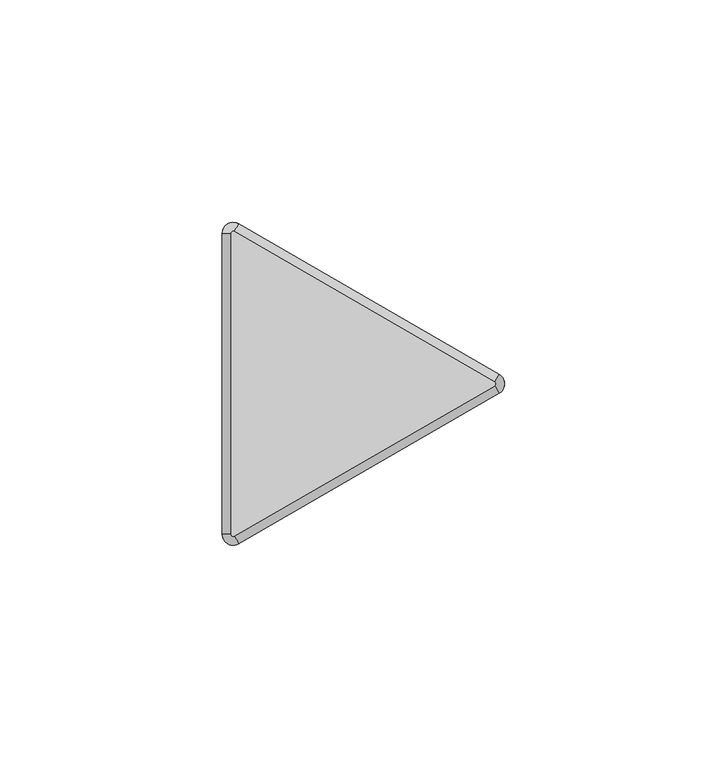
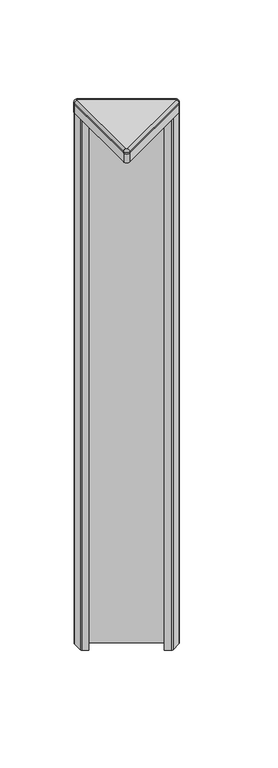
"""IFC4 building model written with IfcOpenShell, lengths in millimetres: furniture geometry, Steelcase - Answer Solution - Panel - 120deg Change-of-Height Trim - Thin : V Corner - 18H for 72H App."""

import ifcopenshell
import ifcopenshell.guid

model = None  # the IFC model being written
_history = None  # IfcOwnerHistory: only IFC2X3 demands one
_inside = {}  # id of a spatial element -> (the spatial element, [elements in it])
_under = {}  # id of a project, library or spatial element -> (it, [spatial elements below it])
_declared = {}  # id of a project -> (the project, [libraries it declares])
_typed = {}  # id of a type object -> (the type object, [elements of that type])
_made_of = {}  # id of a material, layer set ... -> (it, [elements and type objects made of it])


def new_model(schema):
    """Start an empty IFC model of exactly this schema.

    Asked for "IFC4X3", IfcOpenShell would pick the latest addendum, in which some entities
    have other attributes; the version numbers below select the first issue.
    IFC2X3 requires an IfcOwnerHistory on every rooted entity: one is made here for all.
    """
    global model, _history
    if schema == "IFC4X3":
        model = ifcopenshell.file(schema_version=(4, 3, 0, 0))
    else:
        model = ifcopenshell.file(schema=schema)
    _inside.clear()
    _under.clear()
    _declared.clear()
    _typed.clear()
    _made_of.clear()
    _history = None
    if model.schema == "IFC2X3":
        org = make("IfcOrganization", Name="unknown")
        user = make(
            "IfcPersonAndOrganization",
            ThePerson=make("IfcPerson", FamilyName="unknown"),
            TheOrganization=org,
        )
        app = make(
            "IfcApplication",
            ApplicationDeveloper=org,
            Version="unknown",
            ApplicationFullName="unknown",
            ApplicationIdentifier="unknown",
        )
        _history = make(
            "IfcOwnerHistory",
            OwningUser=user,
            OwningApplication=app,
            ChangeAction="ADDED",
            CreationDate=0,
        )
    return model


def make(cls, **values):
    """One entity of the class cls with the attributes given. An attribute that is None is left unset."""
    return model.create_entity(
        cls, **{name: value for name, value in values.items() if value is not None}
    )


def rooted(cls, **values):
    """An entity with a GlobalId (a new one), such as an element, a storey or a relation."""
    return make(cls, GlobalId=ifcopenshell.guid.new(), OwnerHistory=_history, **values)


def si_unit(unit_type, name, prefix=None):
    """IfcSIUnit, for example si_unit("LENGTHUNIT", "METRE", prefix="MILLI")."""
    return make("IfcSIUnit", UnitType=unit_type, Prefix=prefix, Name=name)


def assignment(units):
    """IfcUnitAssignment: the units of a project."""
    return None if units is None else make("IfcUnitAssignment", Units=units)


def point(xyz):
    """IfcCartesianPoint."""
    return None if xyz is None else make("IfcCartesianPoint", Coordinates=xyz)


def direction(xyz):
    """IfcDirection."""
    return None if xyz is None else make("IfcDirection", DirectionRatios=xyz)


def frame(location, z_axis=None, x_axis=None):
    """IfcAxis2Placement3D, a coordinate frame: its origin and axes. An axis left out is left unset."""
    return make(
        "IfcAxis2Placement3D",
        Location=point(location),
        Axis=direction(z_axis),
        RefDirection=direction(x_axis),
    )


def frame_2d(location, x_axis=None):
    """IfcAxis2Placement2D, a coordinate frame in the plane: its origin and x axis."""
    return make(
        "IfcAxis2Placement2D", Location=point(location), RefDirection=direction(x_axis)
    )


def origin():
    """The frame at (0, 0, 0) with its axes left unset."""
    return frame((0.0, 0.0, 0.0))


def place(relative_to, where):
    """IfcLocalPlacement: puts the frame where relative to a parent placement (None: the world)."""
    return make(
        "IfcLocalPlacement", PlacementRelTo=relative_to, RelativePlacement=where
    )


def context(
    kind, dimensions, precision=None, world=None, true_north=None, identifier=None
):
    """IfcGeometricRepresentationContext, for example the 3D "Model" context."""
    return make(
        "IfcGeometricRepresentationContext",
        ContextIdentifier=identifier,
        ContextType=kind,
        CoordinateSpaceDimension=dimensions,
        Precision=precision,
        WorldCoordinateSystem=world,
        TrueNorth=true_north,
    )


def project(units=None, contexts=None):
    """IfcProject with its units and contexts."""
    return rooted(
        "IfcProject",
        Name="project",
        RepresentationContexts=contexts,
        UnitsInContext=assignment(units),
    )


def spatial(cls, under=None, at=None, **own):
    """A site, building, storey or space (cls), placed at a placement, below another one or the project."""
    s = rooted(cls, ObjectPlacement=at, **own)
    if under is not None:
        _under.setdefault(under.id(), (under, []))[1].append(s)
    return s


def polyline(points):
    """IfcPolyline through the points."""
    return make("IfcPolyline", Points=[point(p) for p in points])


def circle_curve(where, radius):
    """IfcCircle in the frame where."""
    return make("IfcCircle", Position=where, Radius=radius)


def ellipse_curve(where, semi_axis1, semi_axis2):
    """IfcEllipse in the frame where."""
    return make(
        "IfcEllipse", Position=where, SemiAxis1=semi_axis1, SemiAxis2=semi_axis2
    )


def trimmed(basis, trim1, trim2, sense, master):
    """IfcTrimmedCurve: the piece of a basis curve between two trims."""
    return make(
        "IfcTrimmedCurve",
        BasisCurve=basis,
        Trim1=trim1,
        Trim2=trim2,
        SenseAgreement=sense,
        MasterRepresentation=master,
    )


def segment(curve, same_sense, transition):
    """IfcCompositeCurveSegment."""
    return make(
        "IfcCompositeCurveSegment",
        Transition=transition,
        SameSense=same_sense,
        ParentCurve=curve,
    )


def composite_curve(segments, self_intersect=None):
    """IfcCompositeCurve: segments joined end to end."""
    return make("IfcCompositeCurve", Segments=segments, SelfIntersect=self_intersect)


def outline(outer, holes=None, kind="AREA"):
    """IfcArbitraryClosedProfileDef: a profile drawn as a closed curve; with holes, ...WithVoids."""
    if holes is None:
        return make("IfcArbitraryClosedProfileDef", ProfileType=kind, OuterCurve=outer)
    return make(
        "IfcArbitraryProfileDefWithVoids",
        ProfileType=kind,
        OuterCurve=outer,
        InnerCurves=holes,
    )


def extrude(swept, where, along, depth):
    """IfcExtrudedAreaSolid: the profile swept, set in the frame where, extruded along a direction by depth."""
    return make(
        "IfcExtrudedAreaSolid",
        SweptArea=swept,
        Position=where,
        ExtrudedDirection=direction(along),
        Depth=depth,
    )


def shape(context_of_items, identifier, shape_type, items):
    """IfcShapeRepresentation: the items that make up one representation, for example the "Body"."""
    return make(
        "IfcShapeRepresentation",
        ContextOfItems=context_of_items,
        RepresentationIdentifier=identifier,
        RepresentationType=shape_type,
        Items=items,
    )


def source(mapping_origin, context_of_items, identifier, shape_type, items):
    """IfcRepresentationMap: a shape defined once, which mapped items show again and again."""
    return make(
        "IfcRepresentationMap",
        MappingOrigin=mapping_origin,
        MappedRepresentation=shape(context_of_items, identifier, shape_type, items),
    )


def transform(
    local_origin,
    x_axis=None,
    y_axis=None,
    z_axis=None,
    scale=None,
    scale2=None,
    scale3=None,
    uniform=True,
):
    """IfcCartesianTransformationOperator3D, or its non-uniform kind. x_axis, y_axis, z_axis: its Axis1, 2, 3."""
    if uniform:
        return make(
            "IfcCartesianTransformationOperator3D",
            Axis1=direction(x_axis),
            Axis2=direction(y_axis),
            LocalOrigin=point(local_origin),
            Scale=scale,
            Axis3=direction(z_axis),
        )
    return make(
        "IfcCartesianTransformationOperator3DnonUniform",
        Axis1=direction(x_axis),
        Axis2=direction(y_axis),
        LocalOrigin=point(local_origin),
        Scale=scale,
        Axis3=direction(z_axis),
        Scale2=scale2,
        Scale3=scale3,
    )


def mapped(mapping_source, mapping_target):
    """IfcMappedItem: shows the shape of a source again, moved by a transform."""
    return make(
        "IfcMappedItem", MappingSource=mapping_source, MappingTarget=mapping_target
    )


def made_of(thing, what):
    """Note that an element or type object is made of a material, layer set ...; save() writes the relation."""
    if what is not None:
        _made_of.setdefault(what.id(), (what, []))[1].append(thing)
    return thing


def element(
    cls,
    number,
    at=None,
    inside=None,
    cuts=None,
    type_object=None,
    material=None,
    context=None,
    identifier="Body",
    shape_type=None,
    held_by="IfcProductDefinitionShape",
    body=None,
    shapes=None,
    **own,
):
    """One element of the class cls, such as IfcWall. Its Tag is "e" and its number.

    at: its placement. inside: the storey or other place that contains it. cuts: it is an
    opening in that element (IfcRelVoidsElement). A single representation is given by context,
    identifier, shape_type and body (its items); several are given by shapes. held_by: the class
    of the entity that holds the representations. save() writes the other relations.
    """
    e = rooted(cls, Tag="e%d" % number, ObjectPlacement=at, **own)
    if body is not None:
        shapes = [shape(context, identifier, shape_type, body)]
    if shapes is not None:
        e.Representation = make(held_by, Representations=shapes)
    if inside is not None:
        _inside.setdefault(inside.id(), (inside, []))[1].append(e)
    if cuts is not None:
        rooted(
            "IfcRelVoidsElement", RelatingBuildingElement=cuts, RelatedOpeningElement=e
        )
    if type_object is not None:
        _typed.setdefault(type_object.id(), (type_object, []))[1].append(e)
    return made_of(e, material)


def aggregate(whole, parts):
    """IfcRelAggregates: a whole, such as a stair, and the parts it consists of."""
    return rooted("IfcRelAggregates", RelatingObject=whole, RelatedObjects=parts)


def save(model, path):
    """Write the relations noted so far, then the file.

    IfcRelAggregates (storeys below a building ...), IfcRelContainedInSpatialStructure (elements
    in a storey), IfcRelDefinesByType, IfcRelAssociatesMaterial and IfcRelDeclares: one each for
    every whole, place, type object, material and project.
    """
    for whole, parts in _under.values():
        aggregate(whole, parts)
    for where, things in _inside.values():
        rooted(
            "IfcRelContainedInSpatialStructure",
            RelatedElements=things,
            RelatingStructure=where,
        )
    for kind, things in _typed.values():
        rooted("IfcRelDefinesByType", RelatedObjects=things, RelatingType=kind)
    for what, things in _made_of.values():
        rooted("IfcRelAssociatesMaterial", RelatedObjects=things, RelatingMaterial=what)
    for by, libraries in _declared.values():
        rooted("IfcRelDeclares", RelatingContext=by, RelatedDefinitions=libraries)
    model.write(path)


def plane_surface(at):
    """IfcPlane: the flat surface through the origin of the frame at, square to its z axis."""
    return make("IfcPlane", Position=at)


def cylinder_surface(at, radius):
    """IfcCylindricalSurface: all points at the distance radius from the z axis of the frame at."""
    return make("IfcCylindricalSurface", Position=at, Radius=radius)


def revolved_surface(curve, axis_point, axis_direction):
    """IfcSurfaceOfRevolution: the curve turned about the line through axis_point along axis_direction."""
    return make(
        "IfcSurfaceOfRevolution",
        SweptCurve=make("IfcArbitraryOpenProfileDef", ProfileType="CURVE", Curve=curve),
        AxisPosition=make("IfcAxis1Placement", Location=point(axis_point), Axis=direction(axis_direction)),
    )


def advanced_brep(points, edges, surfaces, faces):
    """IfcAdvancedBrep: a solid bounded by faces that lie on surfaces and meet in shared edges.

    An edge is (start, end): straight between two places in points (the first is 0);
    or (start, end, curve); or (start, end, curve, False) where it runs against its curve.
    A face is (place in surfaces, loops), or (place, loops, False) where it looks against
    its surface's normal. A loop lists edges by number (the first is 1), with a minus sign
    where the edge is run from its end to its start. The first loop is the outer one.
    """
    corners = [point(p) for p in points]
    vertices = [make("IfcVertexPoint", VertexGeometry=c) for c in corners]
    made = []
    for start, end, *more in edges:
        made.append(
            make(
                "IfcEdgeCurve",
                EdgeStart=vertices[start],
                EdgeEnd=vertices[end],
                EdgeGeometry=more[0] if more else make("IfcPolyline", Points=[corners[start], corners[end]]),
                SameSense=more[1] if len(more) > 1 else True,
            )
        )
    hull = []
    for where, loops, *sense in faces:
        bounds = []
        for j, loop in enumerate(loops):
            ring = [make("IfcOrientedEdge", EdgeElement=made[abs(k) - 1], Orientation=k > 0) for k in loop]
            bounds.append(
                make(
                    "IfcFaceOuterBound" if j == 0 else "IfcFaceBound",
                    Bound=make("IfcEdgeLoop", EdgeList=ring),
                    Orientation=True,
                )
            )
        hull.append(make("IfcAdvancedFace", Bounds=bounds, FaceSurface=surfaces[where], SameSense=sense[0] if sense else True))
    return make("IfcAdvancedBrep", Outer=make("IfcClosedShell", CfsFaces=hull))


def furniture_6d25bcfb(model_context):
    return source(origin(), model_context, "Body", "SolidModel", [
        advanced_brep(
        [(-10.518645, -37.3335529, 1833.2628978), (-14.2052101, -35.2051135, 1833.2628978), (-14.2052101, -35.2051135, 1832.3164663), (-10.518645, -37.3335529, 1832.3164663), (-11.46175, -35.7000471, 1835.15), (-12.319, -35.2051135, 1835.15), (-11.46175, -35.7000471, 1832.3164663), (-12.319, -35.2051135, 1832.3164663), (48.0429908, -3.5229767, 1832.3164663), (48.0429908, -3.5229767, 1833.2628978), (47.0998858, -1.8894709, 1835.15), (47.0998858, -1.8894709, 1832.3164663), (48.0429908, 0.733902, 1833.2628978), (48.0429908, 0.733902, 1832.3164663), (47.0998858, -0.8996038, 1835.15), (47.0998858, -0.8996038, 1832.3164663), (-10.518645, 34.5444782, 1832.3164663), (-14.2052101, 32.4160388, 1832.3164663), (-11.46175, 32.9109723, 1832.3164663), (-12.319, 32.4160388, 1832.3164663), (-10.518645, 34.5444782, 1833.2628978), (-11.46175, 32.9109723, 1835.15), (-14.2052101, 32.4160388, 1833.2628978), (-12.319, 32.4160388, 1835.15)],
        [
            (0, 1, circle_curve(frame((-11.7475, -35.2051135, 1833.2628978), z_axis=(0.0, 0.0, -1.0), x_axis=(-1.0, 0.0, 0.0)), 2.4577101)),
            (1, 2),
            (2, 3, circle_curve(frame((-11.7475, -35.2051135, 1832.3164663), z_axis=(0.0, 0.0, 1.0), x_axis=(-1.0, 0.0, 0.0)), 2.4577101)),
            (3, 0),
            (4, 5, circle_curve(frame((-11.7475, -35.2051135, 1835.15), z_axis=(0.0, 0.0, -1.0), x_axis=(-1.0, 0.0, 0.0)), 0.5715)),
            (5, 1, circle_curve(frame((-12.3181076, -35.2051135, 1833.2628978), z_axis=(0.0, -1.0, 0.0), x_axis=(1.0, 0.0, 0.0)), 1.8871024)),
            (0, 4, circle_curve(frame((-11.4621962, -35.6992743, 1833.2628978), z_axis=(-0.8660254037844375, -0.5000000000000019, 0.0), x_axis=(-0.5000000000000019, 0.8660254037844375, 0.0)), 1.8871024)),
            (6, 7, circle_curve(frame((-11.7475, -35.2051135, 1832.3164663), z_axis=(0.0, 0.0, -1.0), x_axis=(-1.0, 0.0, 0.0)), 0.5715)),
            (7, 5),
            (4, 6),
            (3, 8),
            (8, 9),
            (9, 0),
            (9, 10, circle_curve(frame((47.0994396, -1.8886981, 1833.2628978), z_axis=(-0.8660254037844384, -0.5000000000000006, 0.0), x_axis=(-0.5000000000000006, 0.8660254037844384, 0.0)), 1.8871024)),
            (10, 4),
            (10, 11),
            (11, 6),
            (12, 9, circle_curve(frame((46.8141358, -1.3945374, 1833.2628978), z_axis=(0.0, 0.0, -1.0), x_axis=(0.4999999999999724, -0.8660254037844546, 0.0)), 2.4577101)),
            (8, 13, circle_curve(frame((46.8141358, -1.3945374, 1832.3164663), z_axis=(0.0, 0.0, 1.0), x_axis=(0.4999999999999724, -0.8660254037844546, 0.0)), 2.4577101)),
            (13, 12),
            (14, 10, circle_curve(frame((46.8141358, -1.3945374, 1835.15), z_axis=(0.0, 0.0, -1.0), x_axis=(0.4999999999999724, -0.8660254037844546, 0.0)), 0.5715)),
            (12, 14, circle_curve(frame((47.0994396, -0.9003766, 1833.2628978), z_axis=(0.866025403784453, -0.499999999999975, 0.0), x_axis=(-0.499999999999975, -0.866025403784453, 0.0)), 1.8871024)),
            (15, 11, circle_curve(frame((46.8141358, -1.3945374, 1832.3164663), z_axis=(0.0, 0.0, -1.0), x_axis=(0.4999999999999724, -0.8660254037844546, 0.0)), 0.5715)),
            (14, 15),
            (16, 13),
            (2, 17),
            (17, 16, circle_curve(frame((-11.7475, 32.4160388, 1832.3164663), z_axis=(0.0, 0.0, -1.0), x_axis=(0.500000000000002, 0.8660254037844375, 0.0)), 2.4577101)),
            (15, 18),
            (18, 19, circle_curve(frame((-11.7475, 32.4160388, 1832.3164663), z_axis=(0.0, 0.0, 1.0), x_axis=(0.500000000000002, 0.8660254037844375, 0.0)), 0.5715)),
            (19, 7),
            (16, 20),
            (20, 12),
            (20, 21, circle_curve(frame((-11.4621962, 32.9101995, 1833.2628978), z_axis=(0.8660254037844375, -0.5000000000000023, 0.0), x_axis=(-0.5000000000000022, -0.8660254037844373, 0.0)), 1.8871024)),
            (21, 14),
            (21, 18),
            (22, 20, circle_curve(frame((-11.7475, 32.4160388, 1833.2628978), z_axis=(0.0, 0.0, -1.0), x_axis=(0.500000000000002, 0.8660254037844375, 0.0)), 2.4577101)),
            (17, 22),
            (23, 21, circle_curve(frame((-11.7475, 32.4160388, 1835.15), z_axis=(0.0, 0.0, -1.0), x_axis=(0.500000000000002, 0.8660254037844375, 0.0)), 0.5715)),
            (22, 23, circle_curve(frame((-12.3181076, 32.4160388, 1833.2628978), z_axis=(0.0, 1.0, 0.0), x_axis=(1.0, 0.0, 0.0)), 1.8871024)),
            (23, 19),
            (1, 22),
            (5, 23),
        ],
        [
            cylinder_surface(frame((-11.7475, -35.2051135, 0.0), z_axis=(0.0, 0.0, 1.0), x_axis=(-1.0, 0.0, 0.0)), 2.4577101),
            revolved_surface(trimmed(ellipse_curve(frame((-12.3181076, -35.2051135, 1833.2628978), z_axis=(0.0, 1.0, 0.0), x_axis=(1.0, 0.0, 0.0)), 1.8871024, 1.8871024), [point((-14.2052101, -35.2051135, 1833.2628978))], [point((-12.319, -35.2051135, 1835.15))], True, "CARTESIAN"), (-11.7475, -35.2051135, 0.0), (0.0, 0.0, 1.0)),
            revolved_surface(polyline([(-12.319, -35.2051135, 1835.15), (-12.319, -35.2051135, 1832.3164663)]), (-11.7475, -35.2051135, 0.0), (0.0, 0.0, 1.0)),
            plane_surface(frame((-10.518645, -37.3335529, 1832.3164663), z_axis=(0.5000000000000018, -0.8660254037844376, 0.0), x_axis=(0.8660254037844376, 0.5000000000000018, 0.0))),
            cylinder_surface(frame((-11.4621962, -35.6992743, 1833.2628978), z_axis=(-0.8660254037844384, -0.5000000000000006, 0.0), x_axis=(-0.5000000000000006, 0.8660254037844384, 0.0)), 1.8871024),
            plane_surface(frame((-11.46175, -35.7000471, 1835.15), z_axis=(-0.49999999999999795, 0.8660254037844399, 0.0), x_axis=(0.8660254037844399, 0.49999999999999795, 0.0))),
            cylinder_surface(frame((46.8141358, -1.3945374, 0.0), z_axis=(0.0, 0.0, 1.0), x_axis=(0.4999999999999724, -0.8660254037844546, 0.0)), 2.4577101),
            revolved_surface(trimmed(ellipse_curve(frame((47.0994396, -1.8886981, 1833.2628978), z_axis=(-0.8660254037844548, -0.499999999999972, 0.0), x_axis=(-0.499999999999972, 0.8660254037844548, 0.0)), 1.8871024, 1.8871024), [point((48.0429908, -3.5229767, 1833.2628978))], [point((47.0998858, -1.8894709, 1835.15))], True, "CARTESIAN"), (46.8141358, -1.3945374, 0.0), (0.0, 0.0, 1.0)),
            revolved_surface(polyline([(47.09988579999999, -1.8894709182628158, 1835.15), (47.09988579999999, -1.8894709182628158, 1832.3164663)]), (46.8141358, -1.3945374, 0.0), (0.0, 0.0, 1.0)),
            plane_surface(frame((47.0998858, -0.8996038, 1832.3164663), z_axis=(0.0, 0.0, -1.0000000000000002), x_axis=(-0.8660254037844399, 0.49999999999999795, 0.0))),
            plane_surface(frame((48.0429908, 0.733902, 1832.3164663), z_axis=(0.49999999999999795, 0.8660254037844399, 0.0), x_axis=(-0.8660254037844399, 0.49999999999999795, 0.0))),
            cylinder_surface(frame((47.0994396, -0.9003766, 1833.2628978), z_axis=(0.8660254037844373, -0.5000000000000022, 0.0), x_axis=(-0.5000000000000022, -0.8660254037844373, 0.0)), 1.8871024),
            plane_surface(frame((47.0998858, -0.8996038, 1835.15), z_axis=(-0.49999999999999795, -0.8660254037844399, 0.0), x_axis=(-0.8660254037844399, 0.49999999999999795, 0.0))),
            cylinder_surface(frame((-11.7475, 32.4160388, 0.0), z_axis=(0.0, 0.0, 1.0), x_axis=(0.500000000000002, 0.8660254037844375, 0.0)), 2.4577101),
            revolved_surface(trimmed(ellipse_curve(frame((-11.4621962, 32.9101995, 1833.2628978), z_axis=(0.866025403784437, -0.5000000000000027, 0.0), x_axis=(-0.5000000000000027, -0.866025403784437, 0.0)), 1.8871024, 1.8871024), [point((-10.518645, 34.5444782, 1833.2628978))], [point((-11.46175, 32.9109723, 1835.15))], True, "CARTESIAN"), (-11.7475, 32.4160388, 0.0), (0.0, 0.0, 1.0)),
            revolved_surface(polyline([(-11.461749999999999, 32.91097231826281, 1835.15), (-11.461749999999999, 32.91097231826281, 1832.3164663)]), (-11.7475, 32.4160388, 0.0), (0.0, 0.0, 1.0)),
            plane_surface(frame((-14.2052101, 32.4160388, 1832.3164663), z_axis=(-1.0, 0.0, 0.0), x_axis=(0.0, -1.0, 0.0))),
            cylinder_surface(frame((-12.3181076, 32.4160388, 1833.2628978), z_axis=(0.0, 1.0, 0.0), x_axis=(1.0, 0.0, 0.0)), 1.8871024),
            plane_surface(frame((-12.319, 32.4160388, 1835.15), z_axis=(1.0, 0.0, 0.0), x_axis=(0.0, -1.0, 0.0))),
        ],
        [
            (0, [[1, 2, 3, 4]]),
            (1, [[5, 6, -1, 7]]),
            (2, [[8, 9, -5, 10]]),
            (3, [[-4, 11, 12, 13]]),
            (4, [[-7, -13, 14, 15]]),
            (5, [[-10, -15, 16, 17]]),
            (6, [[18, -12, 19, 20]]),
            (7, [[21, -14, -18, 22]]),
            (8, [[23, -16, -21, 24]]),
            (9, [[25, -19, -11, -3, 26, 27], [-8, -17, -23, 28, 29, 30]]),
            (10, [[-20, -25, 31, 32]]),
            (11, [[-22, -32, 33, 34]]),
            (12, [[-24, -34, 35, -28]]),
            (13, [[36, -31, -27, 37]]),
            (14, [[38, -33, -36, 39]]),
            (15, [[-29, -35, -38, 40]]),
            (16, [[-37, -26, -2, 41]]),
            (17, [[-39, -41, -6, 42]]),
            (18, [[-40, -42, -9, -30]]),
        ],
    ),
        extrude(outline(composite_curve([segment(trimmed(circle_curve(frame_2d((46.8261011, -1.3945374)), 0.5655173), [point((47.1088598, -0.904785))], [point((47.1088598, -1.8842897))], False, "CARTESIAN"), True, "CONTINUOUS"), segment(polyline([(47.1088598, -1.8842897), (-11.4505119, -35.6935587)]), True, "CONTINUOUS"), segment(trimmed(circle_curve(frame_2d((-11.7400079, -35.1921369)), 0.5789921), [point((-11.4505119, -35.6935587))], [point((-12.319, -35.1921369))], False, "CARTESIAN"), True, "CONTINUOUS"), segment(polyline([(-12.319, -35.1921369), (-12.319, 32.3985888)]), True, "CONTINUOUS"), segment(trimmed(circle_curve(frame_2d((-11.7374252, 32.3985888)), 0.5815748), [point((-12.319, 32.3985888))], [point((-11.4466378, 32.9022473))], False, "CARTESIAN"), True, "CONTINUOUS"), segment(polyline([(-11.4466378, 32.9022473), (47.1088598, -0.904785)]), True, "CONTINUOUS")], self_intersect=False)), frame((0.0, 0.0, 1832.3164663), z_axis=(0.0, 0.0, 1.0), x_axis=(1.0, 0.0, 0.0)), (0.0, 0.0, 1.0), 2.8335337),
        extrude(outline(composite_curve([segment(trimmed(circle_curve(frame_2d((47.9608454, -1.3945374)), 1.2935425), [point((48.6076166, -0.2742967))], [point((48.6076166, -2.514778))], False, "CARTESIAN"), True, "CONTINUOUS"), segment(polyline([(48.6076166, -2.514778), (41.722656, -6.4898119)]), True, "CONTINUOUS"), segment(trimmed(circle_curve(frame_2d((41.0991304, -5.4098338)), 1.2470513), [point((41.722656, -6.4898119))], [point((40.4756048, -6.4898119))], False, "CARTESIAN"), True, "CONTINUOUS"), segment(polyline([(40.4756048, -6.4898119), (36.3239304, -4.0928416), (36.7811304, -3.300948), (41.0991304, -5.7939464), (47.3502407, -2.1848662)]), True, "CONTINUOUS"), segment(trimmed(circle_curve(frame_2d((46.8939441, -1.3945374)), 0.9125932), [point((47.3502407, -2.1848662))], [point((47.3502407, -0.6042085))], True, "CARTESIAN"), True, "CONTINUOUS"), segment(polyline([(47.3502407, -0.6042085), (-11.3312768, 33.2755814)]), True, "CONTINUOUS"), segment(trimmed(circle_curve(frame_2d((-11.7875179, 32.4853487)), 0.9124821), [point((-11.3312768, 33.2755814))], [point((-12.7, 32.4853487))], True, "CARTESIAN"), True, "CONTINUOUS"), segment(polyline([(-12.7, 32.4853487), (-12.7, 25.266996), (-8.382, 22.7739975), (-8.8392, 21.9821039), (-12.9583282, 24.3602837)]), True, "CONTINUOUS"), segment(trimmed(circle_curve(frame_2d((-12.3022565, 25.4966333)), 1.3121435), [point((-12.9583282, 24.3602837))], [point((-13.6144, 25.4966333))], False, "CARTESIAN"), True, "CONTINUOUS"), segment(polyline([(-13.6144, 25.4966333), (-13.6144, 33.3957138)]), True, "CONTINUOUS"), segment(trimmed(circle_curve(frame_2d((-12.3131174, 33.3957138)), 1.3012826), [point((-13.6144, 33.3957138))], [point((-11.6624761, 34.5226576))], False, "CARTESIAN"), True, "CONTINUOUS"), segment(polyline([(-11.6624761, 34.5226576), (48.6076166, -0.2742967)]), True, "CONTINUOUS")], self_intersect=False)), frame((0.0, 0.0, 1377.95), z_axis=(0.0, 0.0, 1.0), x_axis=(1.0, 0.0, 0.0)), (0.0, 0.0, 1.0), 447.04),
        extrude(outline(composite_curve([segment(trimmed(circle_curve(frame_2d((46.8140443, -1.3945374)), 2.4577558), [point((48.0429222, 0.7339416))], [point((48.0429222, -3.5230163))], False, "CARTESIAN"), True, "CONTINUOUS"), segment(polyline([(48.0429222, -3.5230163), (-10.518058, -37.333214)]), True, "CONTINUOUS"), segment(trimmed(circle_curve(frame_2d((-11.7471087, -35.2044357)), 2.4581014), [point((-10.518058, -37.333214))], [point((-14.2052101, -35.2044357))], False, "CARTESIAN"), True, "CONTINUOUS"), segment(polyline([(-14.2052101, -35.2044357), (-14.2052101, 32.4160388)]), True, "CONTINUOUS"), segment(trimmed(circle_curve(frame_2d((-11.7475, 32.4160388)), 2.4577101), [point((-14.2052101, 32.4160388))], [point((-10.518645, 34.5444782))], False, "CARTESIAN"), True, "CONTINUOUS"), segment(polyline([(-10.518645, 34.5444782), (48.0429222, 0.7339416)]), True, "CONTINUOUS")], self_intersect=False)), frame((0.0, 0.0, 1824.99), z_axis=(0.0, 0.0, 1.0), x_axis=(1.0, 0.0, 0.0)), (0.0, 0.0, 1.0), 7.3264663),
    ])


if __name__ == "__main__":
    model = new_model("IFC4")
    model_context = context("Model", 3, world=origin())
    ifc_project = project(units=[si_unit("LENGTHUNIT", "METRE", prefix="MILLI")], contexts=[model_context])
    site = spatial("IfcSite", under=ifc_project)
    building = spatial("IfcBuilding", under=site)
    placement = place(None, origin())
    furniture_shape = furniture_6d25bcfb(model_context)
    element("IfcFurniture", 1, ObjectType="Steelcase - Answer Solution - Panel - 120deg Change-of-Height Trim - Thin : V Corner - 18H for 72H App", at=placement, inside=building, context=model_context, shape_type="MappedRepresentation", body=[
        mapped(furniture_shape, transform((0.0, 0.0, 0.0), x_axis=(1.0, 0.0, 0.0), y_axis=(0.0, 1.0, 0.0), z_axis=(0.0, 0.0, 1.0))),
    ])
    save(model, "model.ifc")
